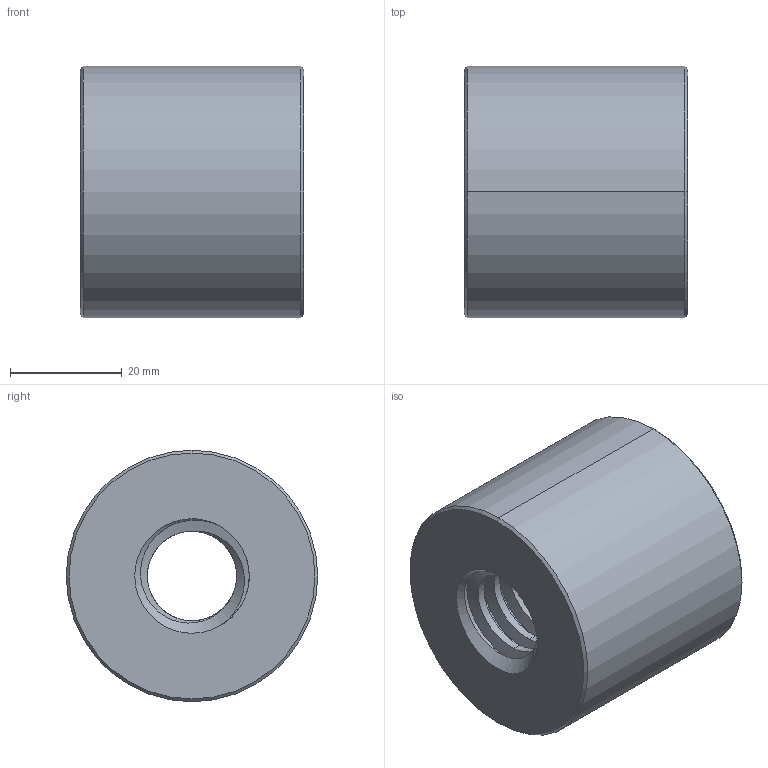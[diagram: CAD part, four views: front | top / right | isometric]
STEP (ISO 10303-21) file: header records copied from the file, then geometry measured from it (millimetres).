
FILE_DESCRIPTION((''),'2;1');
FILE_NAME('716-020-6000_PRT','2024-03-23T',('Brieden'),('ib-brieden'),'PRO/ENGINEER BY PARAMETRIC TECHNOLOGY CORPORATION, 2010160','PRO/ENGINEER BY PARAMETRIC TECHNOLOGY CORPORATION, 2010160','');
FILE_SCHEMA(('AUTOMOTIVE_DESIGN { 1 0 10303 214 1 1 1 1 }'));
Length unit declared in the file: millimetre
Products named in the file (1): 716-020-6000_PRT
Bounding box: 40 x 45 x 45 mm (x, y, z)
Volume: 52946.7 mm3; surface area: 12325.6 mm2
Topology: 1 solids, 1 shells, 39 faces, 99 edges, 62 vertices
Faces by surface type: cylinder 20, bspline 9, cone 8, plane 2
Entity records: 5062 total; most frequent: CARTESIAN_POINT 4183, ORIENTED_EDGE 198, DIRECTION 119, EDGE_CURVE 99, VERTEX_POINT 62, B_SPLINE_CURVE_WITH_KNOTS 54, AXIS2_PLACEMENT_3D 44, EDGE_LOOP 41
